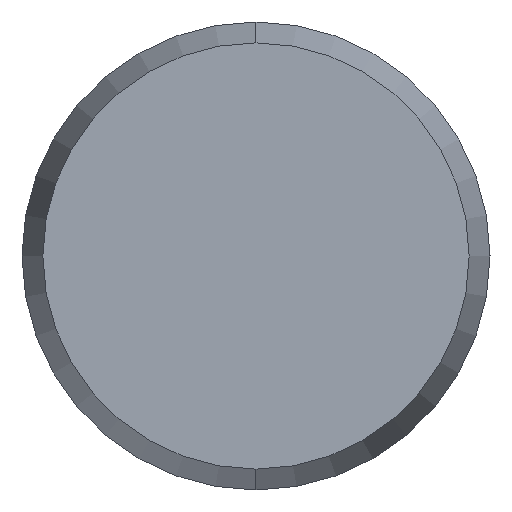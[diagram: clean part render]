
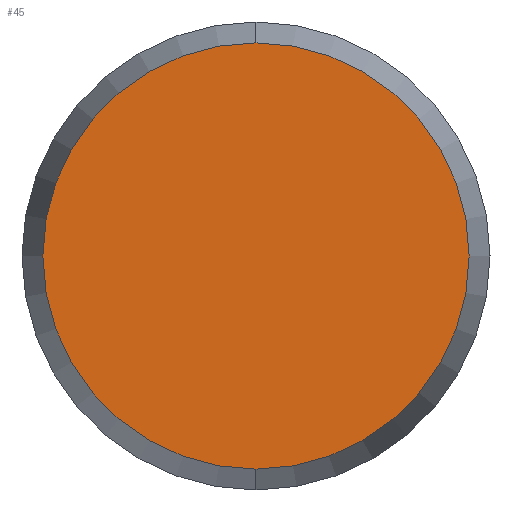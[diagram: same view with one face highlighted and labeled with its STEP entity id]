
A CAD part, left-side view. The second image highlights one B-rep face of the part: STEP entity #45.
In plain terms, the highlighted planar face has unit normal (-1, 0, 0).
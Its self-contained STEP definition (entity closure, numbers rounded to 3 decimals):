
#5 = EDGE_CURVE ( 'NONE', #6, #7, #79, .T. ) ;
#6 = VERTEX_POINT ( 'NONE', #74 ) ;
#7 = VERTEX_POINT ( 'NONE', #73 ) ;
#41 = EDGE_CURVE ( 'NONE', #7, #6, #144, .T. ) ;
#44 = EDGE_LOOP ( 'NONE', ( #46, #47 ) ) ;
#45 = ADVANCED_FACE ( 'NONE', ( #136 ), #135, .F. ) ;
#46 = ORIENTED_EDGE ( 'NONE', *, *, #5, .F. ) ;
#47 = ORIENTED_EDGE ( 'NONE', *, *, #41, .F. ) ;
#73 = CARTESIAN_POINT ( 'NONE',  ( -27.5, 0., -2.732 ) ) ;
#74 = CARTESIAN_POINT ( 'NONE',  ( -27.5, 0., 2.732 ) ) ;
#75 = DIRECTION ( 'NONE',  ( 0., 0., -1. ) ) ;
#76 = DIRECTION ( 'NONE',  ( 1., 0., 0. ) ) ;
#77 = CARTESIAN_POINT ( 'NONE',  ( -27.5, 0., 0. ) ) ;
#78 = AXIS2_PLACEMENT_3D ( 'NONE', #77, #76, #75 ) ;
#79 = CIRCLE ( 'NONE', #78, 2.732 ) ;
#130 = DIRECTION ( 'NONE',  ( 0., 0., -1. ) ) ;
#131 = DIRECTION ( 'NONE',  ( 1., 0., 0. ) ) ;
#132 = CARTESIAN_POINT ( 'NONE',  ( -27.5, 0., 0. ) ) ;
#134 = AXIS2_PLACEMENT_3D ( 'NONE', #132, #131, #130 ) ;
#135 = PLANE ( 'NONE',  #134 ) ;
#136 = FACE_OUTER_BOUND ( 'NONE', #44, .T. ) ;
#137 = DIRECTION ( 'NONE',  ( 0., 0., -1. ) ) ;
#138 = DIRECTION ( 'NONE',  ( 1., 0., 0. ) ) ;
#139 = CARTESIAN_POINT ( 'NONE',  ( -27.5, 0., 0. ) ) ;
#140 = AXIS2_PLACEMENT_3D ( 'NONE', #139, #138, #137 ) ;
#144 = CIRCLE ( 'NONE', #140, 2.732 ) ;
